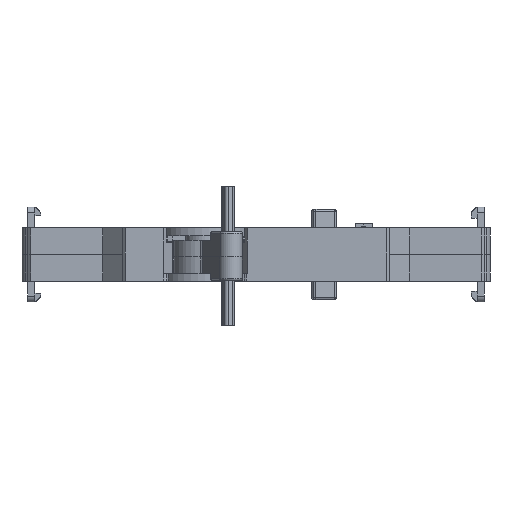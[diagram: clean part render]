
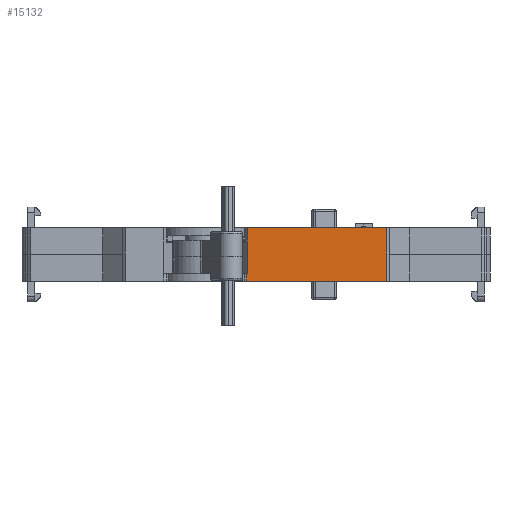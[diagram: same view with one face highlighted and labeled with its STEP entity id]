
A CAD part, front view. The second image highlights one B-rep face of the part: STEP entity #15132.
In plain terms, the highlighted planar face has unit normal (0, -1, 0).
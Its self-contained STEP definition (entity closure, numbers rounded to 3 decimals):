
#10414=DIRECTION('',(-1.,0.,0.));
#10415=VECTOR('',#10414,23.558);
#10416=CARTESIAN_POINT('',(109.302,-78.001,-9.));
#10417=LINE('',#10416,#10415);
#10418=DIRECTION('',(1.,0.,0.));
#10419=VECTOR('',#10418,0.11);
#10420=CARTESIAN_POINT('',(85.743,-78.001,-7.7));
#10421=LINE('',#10420,#10419);
#10422=DIRECTION('',(0.,0.,1.));
#10423=VECTOR('',#10422,7.7);
#10424=CARTESIAN_POINT('',(85.853,-78.001,-7.7));
#10425=LINE('',#10424,#10423);
#10426=DIRECTION('',(1.,0.,0.));
#10427=VECTOR('',#10426,23.449);
#10428=CARTESIAN_POINT('',(85.853,-78.001,
0.));
#10429=LINE('',#10428,#10427);
#10904=DIRECTION('',(0.,0.,1.));
#10905=VECTOR('',#10904,9.);
#10906=CARTESIAN_POINT('',(109.302,-78.001,-9.));
#10907=LINE('',#10906,#10905);
#11897=DIRECTION('',(0.,0.,-1.));
#11898=VECTOR('',#11897,1.3);
#11899=CARTESIAN_POINT('',(85.743,-78.001,-7.7));
#11900=LINE('',#11899,#11898);
#13444=CARTESIAN_POINT('',(85.743,-78.001,-9.));
#13445=VERTEX_POINT('',#13444);
#13446=CARTESIAN_POINT('',(109.302,-78.001,-9.));
#13447=VERTEX_POINT('',#13446);
#13558=CARTESIAN_POINT('',(85.853,-78.001,-7.7));
#13559=VERTEX_POINT('',#13558);
#13560=CARTESIAN_POINT('',(85.743,-78.001,-7.7));
#13561=VERTEX_POINT('',#13560);
#13792=CARTESIAN_POINT('',(85.853,-78.001,
0.));
#13793=CARTESIAN_POINT('',(109.302,-78.001,
0.));
#13794=VERTEX_POINT('',#13792);
#13795=VERTEX_POINT('',#13793);
#15115=CARTESIAN_POINT('',(85.875,-78.001,-8.));
#15116=DIRECTION('',(0.,1.,0.));
#15117=DIRECTION('',(1.,0.,0.));
#15118=AXIS2_PLACEMENT_3D('',#15115,#15116,#15117);
#15119=PLANE('',#15118);
#15121=ORIENTED_EDGE('',*,*,#15120,.T.);
#15123=ORIENTED_EDGE('',*,*,#15122,.F.);
#15124=ORIENTED_EDGE('',*,*,#14810,.T.);
#15126=ORIENTED_EDGE('',*,*,#15125,.T.);
#15127=ORIENTED_EDGE('',*,*,#15094,.T.);
#15129=ORIENTED_EDGE('',*,*,#15128,.F.);
#15130=EDGE_LOOP('',(#15121,#15123,#15124,#15126,#15127,#15129));
#15131=FACE_OUTER_BOUND('',#15130,.F.);
#14810=EDGE_CURVE('',#13561,#13559,#10421,.T.);
#15094=EDGE_CURVE('',#13794,#13795,#10429,.T.);
#15120=EDGE_CURVE('',#13447,#13445,#10417,.T.);
#15122=EDGE_CURVE('',#13561,#13445,#11900,.T.);
#15125=EDGE_CURVE('',#13559,#13794,#10425,.T.);
#15128=EDGE_CURVE('',#13447,#13795,#10907,.T.);
#15132=ADVANCED_FACE('',(#15131),#15119,.F.);
